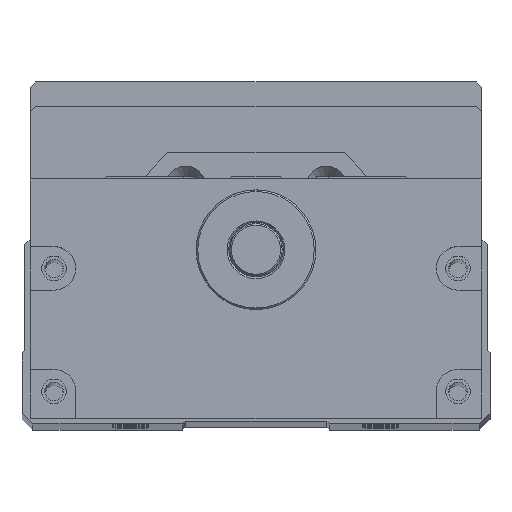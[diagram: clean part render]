
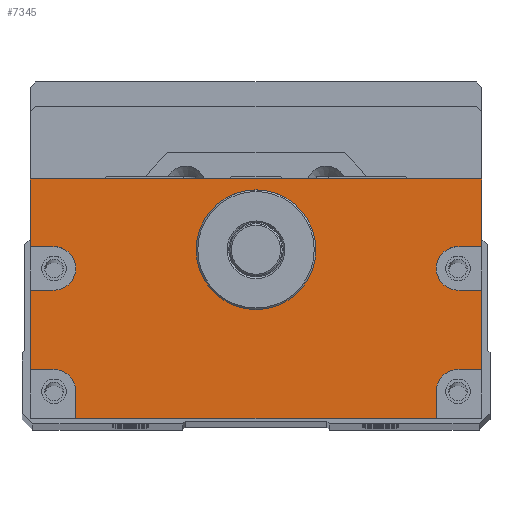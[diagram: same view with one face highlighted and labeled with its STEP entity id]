
A CAD part, top view. The second image highlights one B-rep face of the part: STEP entity #7345.
In plain terms, the highlighted planar face has unit normal (0, 0, 1).
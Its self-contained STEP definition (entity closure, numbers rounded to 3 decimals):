
#581=LINE('',#28696,#1310);
#583=LINE('',#28700,#1312);
#584=LINE('',#28703,#1313);
#585=LINE('',#28705,#1314);
#586=LINE('',#28709,#1315);
#587=LINE('',#28711,#1316);
#588=LINE('',#28712,#1317);
#589=LINE('',#28714,#1318);
#590=LINE('',#28718,#1319);
#591=LINE('',#28720,#1320);
#592=LINE('',#28722,#1321);
#593=LINE('',#28726,#1322);
#594=LINE('',#28728,#1323);
#595=LINE('',#28730,#1324);
#1310=VECTOR('',#17160,1.);
#1312=VECTOR('',#17164,1.);
#1313=VECTOR('',#17165,1.);
#1314=VECTOR('',#17166,1.);
#1315=VECTOR('',#17169,1.);
#1316=VECTOR('',#17170,1.);
#1317=VECTOR('',#17171,1.);
#1318=VECTOR('',#17172,1.);
#1319=VECTOR('',#17175,1.);
#1320=VECTOR('',#17176,1.);
#1321=VECTOR('',#17177,1.);
#1322=VECTOR('',#17180,1.);
#1323=VECTOR('',#17181,1.);
#1324=VECTOR('',#17182,1.);
#6817=FACE_BOUND('',#8805,.T.);
#6818=FACE_BOUND('',#8806,.T.);
#7345=ADVANCED_FACE('',(#6817,#6818),#7858,.T.);
#7858=PLANE('',#15601);
#8805=EDGE_LOOP('',(#10341,#10342,#10343,#10344,#10345,#10346,#10347,#10348,
#10349,#10350,#10351,#10352,#10353,#10354,#10355,#10356,#10357,#10358));
#8806=EDGE_LOOP('',(#10359));
#10341=ORIENTED_EDGE('',*,*,#13837,.F.);
#10342=ORIENTED_EDGE('',*,*,#13838,.T.);
#10343=ORIENTED_EDGE('',*,*,#13839,.F.);
#10344=ORIENTED_EDGE('',*,*,#13840,.F.);
#10345=ORIENTED_EDGE('',*,*,#13841,.F.);
#10346=ORIENTED_EDGE('',*,*,#13842,.T.);
#10347=ORIENTED_EDGE('',*,*,#13835,.T.);
#10348=ORIENTED_EDGE('',*,*,#13843,.T.);
#10349=ORIENTED_EDGE('',*,*,#13844,.F.);
#10350=ORIENTED_EDGE('',*,*,#13845,.F.);
#10351=ORIENTED_EDGE('',*,*,#13846,.F.);
#10352=ORIENTED_EDGE('',*,*,#13847,.T.);
#10353=ORIENTED_EDGE('',*,*,#13848,.F.);
#10354=ORIENTED_EDGE('',*,*,#13849,.F.);
#10355=ORIENTED_EDGE('',*,*,#13850,.F.);
#10356=ORIENTED_EDGE('',*,*,#13851,.T.);
#10357=ORIENTED_EDGE('',*,*,#13852,.F.);
#10358=ORIENTED_EDGE('',*,*,#13853,.F.);
#10359=ORIENTED_EDGE('',*,*,#13821,.T.);
#12648=VERTEX_POINT('',#28667);
#12661=VERTEX_POINT('',#28695);
#12662=VERTEX_POINT('',#28697);
#12663=VERTEX_POINT('',#28701);
#12664=VERTEX_POINT('',#28702);
#12665=VERTEX_POINT('',#28704);
#12666=VERTEX_POINT('',#28706);
#12667=VERTEX_POINT('',#28708);
#12668=VERTEX_POINT('',#28710);
#12669=VERTEX_POINT('',#28713);
#12670=VERTEX_POINT('',#28715);
#12671=VERTEX_POINT('',#28717);
#12672=VERTEX_POINT('',#28719);
#12673=VERTEX_POINT('',#28721);
#12674=VERTEX_POINT('',#28723);
#12675=VERTEX_POINT('',#28725);
#12676=VERTEX_POINT('',#28727);
#12677=VERTEX_POINT('',#28729);
#12678=VERTEX_POINT('',#28731);
#13821=EDGE_CURVE('',#12648,#12648,#14964,.T.);
#13835=EDGE_CURVE('',#12662,#12661,#581,.T.);
#13837=EDGE_CURVE('',#12663,#12664,#583,.T.);
#13838=EDGE_CURVE('',#12663,#12665,#584,.T.);
#13839=EDGE_CURVE('',#12666,#12665,#585,.T.);
#13840=EDGE_CURVE('',#12667,#12666,#14973,.T.);
#13841=EDGE_CURVE('',#12668,#12667,#586,.T.);
#13842=EDGE_CURVE('',#12668,#12662,#587,.T.);
#13843=EDGE_CURVE('',#12661,#12669,#588,.T.);
#13844=EDGE_CURVE('',#12670,#12669,#589,.T.);
#13845=EDGE_CURVE('',#12671,#12670,#14974,.T.);
#13846=EDGE_CURVE('',#12672,#12671,#590,.T.);
#13847=EDGE_CURVE('',#12672,#12673,#591,.T.);
#13848=EDGE_CURVE('',#12674,#12673,#592,.T.);
#13849=EDGE_CURVE('',#12675,#12674,#14975,.T.);
#13850=EDGE_CURVE('',#12676,#12675,#593,.T.);
#13851=EDGE_CURVE('',#12676,#12677,#594,.T.);
#13852=EDGE_CURVE('',#12678,#12677,#595,.T.);
#13853=EDGE_CURVE('',#12664,#12678,#14976,.T.);
#14964=CIRCLE('',#15585,11.);
#14973=CIRCLE('',#15597,4.);
#14974=CIRCLE('',#15598,4.);
#14975=CIRCLE('',#15599,4.);
#14976=CIRCLE('',#15600,4.);
#15585=AXIS2_PLACEMENT_3D('',#28666,#17133,#17134);
#15597=AXIS2_PLACEMENT_3D('',#28707,#17167,#17168);
#15598=AXIS2_PLACEMENT_3D('',#28716,#17173,#17174);
#15599=AXIS2_PLACEMENT_3D('',#28724,#17178,#17179);
#15600=AXIS2_PLACEMENT_3D('',#28732,#17183,#17184);
#15601=AXIS2_PLACEMENT_3D('',#28733,#17185,#17186);
#17133=DIRECTION('',(0.,0.,-1.));
#17134=DIRECTION('',(1.,0.,0.));
#17160=DIRECTION('',(-1.,0.,0.));
#17164=DIRECTION('',(-1.,0.,0.));
#17165=DIRECTION('',(0.,1.,0.));
#17166=DIRECTION('',(1.,0.,0.));
#17167=DIRECTION('',(0.,0.,1.));
#17168=DIRECTION('',(1.,0.,0.));
#17169=DIRECTION('',(-1.,0.,0.));
#17170=DIRECTION('',(0.,1.,0.));
#17171=DIRECTION('',(0.,-1.,0.));
#17172=DIRECTION('',(-1.,0.,0.));
#17173=DIRECTION('',(0.,0.,1.));
#17174=DIRECTION('',(1.,0.,0.));
#17175=DIRECTION('',(1.,0.,0.));
#17176=DIRECTION('',(0.,-1.,0.));
#17177=DIRECTION('',(-1.,0.,0.));
#17178=DIRECTION('',(0.,0.,1.));
#17179=DIRECTION('',(1.,0.,0.));
#17180=DIRECTION('',(0.,1.,0.));
#17181=DIRECTION('',(1.,0.,0.));
#17182=DIRECTION('',(0.,-1.,0.));
#17183=DIRECTION('',(0.,0.,1.));
#17184=DIRECTION('',(1.,0.,0.));
#17185=DIRECTION('',(0.,0.,1.));
#17186=DIRECTION('',(-1.,0.,0.));
#28666=CARTESIAN_POINT('',(300.,0.,482.5));
#28667=CARTESIAN_POINT('',(311.,0.,482.5));
#28695=CARTESIAN_POINT('',(258.5,13.,482.5));
#28696=CARTESIAN_POINT('',(341.5,13.,482.5));
#28697=CARTESIAN_POINT('',(341.5,13.,482.5));
#28700=CARTESIAN_POINT('',(341.5,-22.,482.5));
#28701=CARTESIAN_POINT('',(341.5,-22.,482.5));
#28702=CARTESIAN_POINT('',(337.115,-22.,482.5));
#28703=CARTESIAN_POINT('',(341.5,-31.,482.5));
#28704=CARTESIAN_POINT('',(341.5,-7.431,482.5));
#28705=CARTESIAN_POINT('',(341.5,-7.431,482.5));
#28706=CARTESIAN_POINT('',(337.115,-7.431,482.5));
#28707=CARTESIAN_POINT('',(337.115,-3.431,482.5));
#28708=CARTESIAN_POINT('',(337.115,0.569,482.5));
#28709=CARTESIAN_POINT('',(341.5,0.569,482.5));
#28710=CARTESIAN_POINT('',(341.5,0.569,482.5));
#28711=CARTESIAN_POINT('',(341.5,-31.,482.5));
#28712=CARTESIAN_POINT('',(258.5,27.5,482.5));
#28713=CARTESIAN_POINT('',(258.5,0.569,482.5));
#28714=CARTESIAN_POINT('',(341.5,0.569,482.5));
#28715=CARTESIAN_POINT('',(262.885,0.569,482.5));
#28716=CARTESIAN_POINT('',(262.885,-3.431,482.5));
#28717=CARTESIAN_POINT('',(262.885,-7.431,482.5));
#28718=CARTESIAN_POINT('',(341.5,-7.431,482.5));
#28719=CARTESIAN_POINT('',(258.5,-7.431,482.5));
#28720=CARTESIAN_POINT('',(258.5,27.5,482.5));
#28721=CARTESIAN_POINT('',(258.5,-22.,482.5));
#28722=CARTESIAN_POINT('',(341.5,-22.,482.5));
#28723=CARTESIAN_POINT('',(262.885,-22.,482.5));
#28724=CARTESIAN_POINT('',(262.885,-26.,482.5));
#28725=CARTESIAN_POINT('',(266.885,-26.,482.5));
#28726=CARTESIAN_POINT('',(266.885,-31.,482.5));
#28727=CARTESIAN_POINT('',(266.885,-31.,482.5));
#28728=CARTESIAN_POINT('',(258.5,-31.,482.5));
#28729=CARTESIAN_POINT('',(333.115,-31.,482.5));
#28730=CARTESIAN_POINT('',(333.115,-31.,482.5));
#28731=CARTESIAN_POINT('',(333.115,-26.,482.5));
#28732=CARTESIAN_POINT('',(337.115,-26.,482.5));
#28733=CARTESIAN_POINT('',(341.5,-31.,482.5));
